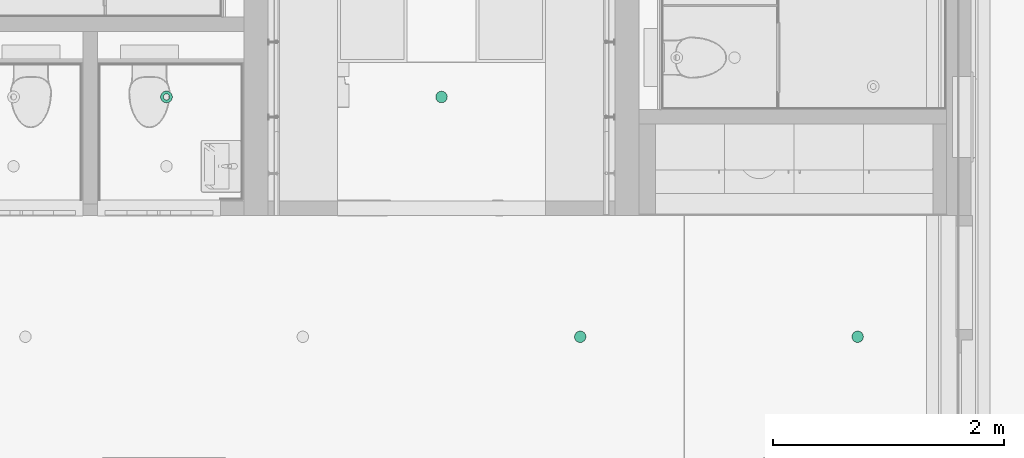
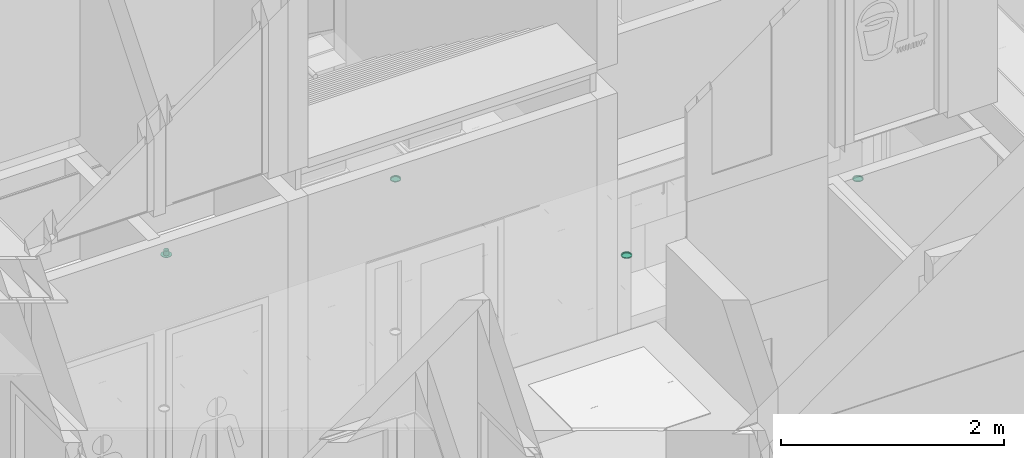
# One storey, part 255 of 347: 4 flow terminals.
"""IFC2X3 building model written with IfcOpenShell, lengths in millimetres."""

import ifcopenshell
import ifcopenshell.guid

model = None  # the IFC model being written
_history = None  # IfcOwnerHistory: only IFC2X3 demands one
_inside = {}  # id of a spatial element -> (the spatial element, [elements in it])
_under = {}  # id of a project, library or spatial element -> (it, [spatial elements below it])
_declared = {}  # id of a project -> (the project, [libraries it declares])
_typed = {}  # id of a type object -> (the type object, [elements of that type])
_made_of = {}  # id of a material, layer set ... -> (it, [elements and type objects made of it])


def new_model(schema):
    """Start an empty IFC model of exactly this schema.

    Asked for "IFC4X3", IfcOpenShell would pick the latest addendum, in which some entities
    have other attributes; the version numbers below select the first issue.
    IFC2X3 requires an IfcOwnerHistory on every rooted entity: one is made here for all.
    """
    global model, _history
    if schema == "IFC4X3":
        model = ifcopenshell.file(schema_version=(4, 3, 0, 0))
    else:
        model = ifcopenshell.file(schema=schema)
    _inside.clear()
    _under.clear()
    _declared.clear()
    _typed.clear()
    _made_of.clear()
    _history = None
    if model.schema == "IFC2X3":
        org = make("IfcOrganization", Name="unknown")
        user = make(
            "IfcPersonAndOrganization",
            ThePerson=make("IfcPerson", FamilyName="unknown"),
            TheOrganization=org,
        )
        app = make(
            "IfcApplication",
            ApplicationDeveloper=org,
            Version="unknown",
            ApplicationFullName="unknown",
            ApplicationIdentifier="unknown",
        )
        _history = make(
            "IfcOwnerHistory",
            OwningUser=user,
            OwningApplication=app,
            ChangeAction="ADDED",
            CreationDate=0,
        )
    return model


def make(cls, **values):
    """One entity of the class cls with the attributes given. An attribute that is None is left unset."""
    return model.create_entity(
        cls, **{name: value for name, value in values.items() if value is not None}
    )


def entity(cls, *values):
    """Any entity or typed value of the class cls, its attributes in the order of the schema. None: left unset."""
    e = model.create_entity(cls)
    for i, value in enumerate(values):
        if value is not None:
            e[i] = value
    return e


def rooted(cls, **values):
    """An entity with a GlobalId (a new one), such as an element, a storey or a relation."""
    return make(cls, GlobalId=ifcopenshell.guid.new(), OwnerHistory=_history, **values)


def si_unit(unit_type, name, prefix=None):
    """IfcSIUnit, for example si_unit("LENGTHUNIT", "METRE", prefix="MILLI")."""
    return make("IfcSIUnit", UnitType=unit_type, Prefix=prefix, Name=name)


def converted_unit(unit_type, name, factor, base, dimensions=None, offset=None):
    """IfcConversionBasedUnit, such as the inch: factor (a typed value) times the base unit."""
    return make(
        "IfcConversionBasedUnit"
        if offset is None
        else "IfcConversionBasedUnitWithOffset",
        ConversionOffset=offset,
        Dimensions=None
        if dimensions is None
        else entity("IfcDimensionalExponents", *dimensions),
        UnitType=unit_type,
        Name=name,
        ConversionFactor=make(
            "IfcMeasureWithUnit", ValueComponent=factor, UnitComponent=base
        ),
    )


def derived_unit(unit_type, elements):
    """IfcDerivedUnit: a product of units, each with its exponent."""
    return make(
        "IfcDerivedUnit",
        Elements=[
            make("IfcDerivedUnitElement", Unit=unit, Exponent=power)
            for unit, power in elements
        ],
        UnitType=unit_type,
    )


def money_unit(currency):
    """IfcMonetaryUnit."""
    return make("IfcMonetaryUnit", Currency=currency)


def assignment(units):
    """IfcUnitAssignment: the units of a project."""
    return None if units is None else make("IfcUnitAssignment", Units=units)


def point(xyz):
    """IfcCartesianPoint."""
    return None if xyz is None else make("IfcCartesianPoint", Coordinates=xyz)


def direction(xyz):
    """IfcDirection."""
    return None if xyz is None else make("IfcDirection", DirectionRatios=xyz)


def frame(location, z_axis=None, x_axis=None):
    """IfcAxis2Placement3D, a coordinate frame: its origin and axes. An axis left out is left unset."""
    return make(
        "IfcAxis2Placement3D",
        Location=point(location),
        Axis=direction(z_axis),
        RefDirection=direction(x_axis),
    )


def origin_with_axes():
    """The frame at (0, 0, 0) with the z axis (0, 0, 1) and the x axis (1, 0, 0) written out."""
    return frame((0.0, 0.0, 0.0), z_axis=(0.0, 0.0, 1.0), x_axis=(1.0, 0.0, 0.0))


def place(relative_to, where):
    """IfcLocalPlacement: puts the frame where relative to a parent placement (None: the world)."""
    return make(
        "IfcLocalPlacement", PlacementRelTo=relative_to, RelativePlacement=where
    )


def context(
    kind, dimensions, precision=None, world=None, true_north=None, identifier=None
):
    """IfcGeometricRepresentationContext, for example the 3D "Model" context."""
    return make(
        "IfcGeometricRepresentationContext",
        ContextIdentifier=identifier,
        ContextType=kind,
        CoordinateSpaceDimension=dimensions,
        Precision=precision,
        WorldCoordinateSystem=world,
        TrueNorth=true_north,
    )


def subcontext(parent, identifier, kind, view, scale=None):
    """IfcGeometricRepresentationSubContext, for example "Body" below "Model"."""
    return make(
        "IfcGeometricRepresentationSubContext",
        ContextIdentifier=identifier,
        ContextType=kind,
        ParentContext=parent,
        TargetScale=scale,
        TargetView=view,
    )


def project(units=None, contexts=None):
    """IfcProject with its units and contexts."""
    return rooted(
        "IfcProject",
        Name="project",
        RepresentationContexts=contexts,
        UnitsInContext=assignment(units),
    )


def spatial(cls, under=None, at=None, **own):
    """A site, building, storey or space (cls), placed at a placement, below another one or the project."""
    s = rooted(cls, ObjectPlacement=at, **own)
    if under is not None:
        _under.setdefault(under.id(), (under, []))[1].append(s)
    return s


def faces_of(points, faces, orient=None, outer=None):
    """IfcFace entities. A face is a list of loops; a loop is a list of indices into points, from 0.

    orient and outer hold one flag for each loop. By default every Orientation is true, the
    first loop of a face is its IfcFaceOuterBound and the others are IfcFaceBound.
    """
    made = []
    for i, loops in enumerate(faces):
        bounds = []
        for j, loop in enumerate(loops):
            is_outer = j == 0 if outer is None else outer[i][j]
            bounds.append(
                make(
                    "IfcFaceOuterBound" if is_outer else "IfcFaceBound",
                    Bound=make("IfcPolyLoop", Polygon=[points[k] for k in loop]),
                    Orientation=True if orient is None else orient[i][j],
                )
            )
        made.append(make("IfcFace", Bounds=bounds))
    return made


def open_shell(faces, orient=None, outer=None):
    """The faces of one IfcOpenShell. surface_model builds it on its shared points."""
    return ("IfcOpenShell", faces, orient, outer)


def faceted_brep(points, faces, orient=None, outer=None, voids=None):
    """IfcFacetedBrep: a solid bounded by flat faces; with voids (closed shells), ...WithVoids."""
    shared = [point(p) for p in points]
    hull = make("IfcClosedShell", CfsFaces=faces_of(shared, faces, orient, outer))
    if voids is None:
        return make("IfcFacetedBrep", Outer=hull)
    return make(
        "IfcFacetedBrepWithVoids",
        Outer=hull,
        Voids=[
            make(cls, CfsFaces=faces_of(shared, fs, o, b)) for cls, fs, o, b in voids
        ],
    )


def surface_model(cls, points, shells):
    """IfcFaceBasedSurfaceModel or IfcShellBasedSurfaceModel (cls): surfaces that need not close."""
    shared = [point(p) for p in points]
    made = [make(c, CfsFaces=faces_of(shared, fs, o, b)) for c, fs, o, b in shells]
    if cls == "IfcFaceBasedSurfaceModel":
        return make(cls, FbsmFaces=made)
    return make(cls, SbsmBoundary=made)


def shape(context_of_items, identifier, shape_type, items):
    """IfcShapeRepresentation: the items that make up one representation, for example the "Body"."""
    return make(
        "IfcShapeRepresentation",
        ContextOfItems=context_of_items,
        RepresentationIdentifier=identifier,
        RepresentationType=shape_type,
        Items=items,
    )


def source(mapping_origin, context_of_items, identifier, shape_type, items):
    """IfcRepresentationMap: a shape defined once, which mapped items show again and again."""
    return make(
        "IfcRepresentationMap",
        MappingOrigin=mapping_origin,
        MappedRepresentation=shape(context_of_items, identifier, shape_type, items),
    )


def transform(
    local_origin,
    x_axis=None,
    y_axis=None,
    z_axis=None,
    scale=None,
    scale2=None,
    scale3=None,
    uniform=True,
):
    """IfcCartesianTransformationOperator3D, or its non-uniform kind. x_axis, y_axis, z_axis: its Axis1, 2, 3."""
    if uniform:
        return make(
            "IfcCartesianTransformationOperator3D",
            Axis1=direction(x_axis),
            Axis2=direction(y_axis),
            LocalOrigin=point(local_origin),
            Scale=scale,
            Axis3=direction(z_axis),
        )
    return make(
        "IfcCartesianTransformationOperator3DnonUniform",
        Axis1=direction(x_axis),
        Axis2=direction(y_axis),
        LocalOrigin=point(local_origin),
        Scale=scale,
        Axis3=direction(z_axis),
        Scale2=scale2,
        Scale3=scale3,
    )


def mapped(mapping_source, mapping_target):
    """IfcMappedItem: shows the shape of a source again, moved by a transform."""
    return make(
        "IfcMappedItem", MappingSource=mapping_source, MappingTarget=mapping_target
    )


def made_of(thing, what):
    """Note that an element or type object is made of a material, layer set ...; save() writes the relation."""
    if what is not None:
        _made_of.setdefault(what.id(), (what, []))[1].append(thing)
    return thing


def type_object(cls, material=None, **own):
    """A type object (cls), such as IfcWallType, which elements share."""
    return made_of(rooted(cls, **own), material)


def type_shapes(of_type, sources):
    """Give a type object the sources (RepresentationMaps) that its elements show as mapped items."""
    of_type.RepresentationMaps = sources


def element(
    cls,
    number,
    at=None,
    inside=None,
    cuts=None,
    type_object=None,
    material=None,
    context=None,
    identifier="Body",
    shape_type=None,
    held_by="IfcProductDefinitionShape",
    body=None,
    shapes=None,
    **own,
):
    """One element of the class cls, such as IfcWall. Its Tag is "e" and its number.

    at: its placement. inside: the storey or other place that contains it. cuts: it is an
    opening in that element (IfcRelVoidsElement). A single representation is given by context,
    identifier, shape_type and body (its items); several are given by shapes. held_by: the class
    of the entity that holds the representations. save() writes the other relations.
    """
    e = rooted(cls, Tag="e%d" % number, ObjectPlacement=at, **own)
    if body is not None:
        shapes = [shape(context, identifier, shape_type, body)]
    if shapes is not None:
        e.Representation = make(held_by, Representations=shapes)
    if inside is not None:
        _inside.setdefault(inside.id(), (inside, []))[1].append(e)
    if cuts is not None:
        rooted(
            "IfcRelVoidsElement", RelatingBuildingElement=cuts, RelatedOpeningElement=e
        )
    if type_object is not None:
        _typed.setdefault(type_object.id(), (type_object, []))[1].append(e)
    return made_of(e, material)


def aggregate(whole, parts):
    """IfcRelAggregates: a whole, such as a stair, and the parts it consists of."""
    return rooted("IfcRelAggregates", RelatingObject=whole, RelatedObjects=parts)


def save(model, path):
    """Write the relations noted so far, then the file.

    IfcRelAggregates (storeys below a building ...), IfcRelContainedInSpatialStructure (elements
    in a storey), IfcRelDefinesByType, IfcRelAssociatesMaterial and IfcRelDeclares: one each for
    every whole, place, type object, material and project.
    """
    for whole, parts in _under.values():
        aggregate(whole, parts)
    for where, things in _inside.values():
        rooted(
            "IfcRelContainedInSpatialStructure",
            RelatedElements=things,
            RelatingStructure=where,
        )
    for kind, things in _typed.values():
        rooted("IfcRelDefinesByType", RelatedObjects=things, RelatingType=kind)
    for what, things in _made_of.values():
        rooted("IfcRelAssociatesMaterial", RelatedObjects=things, RelatingMaterial=what)
    for by, libraries in _declared.values():
        rooted("IfcRelDeclares", RelatingContext=by, RelatedDefinitions=libraries)
    model.write(path)


model = new_model("IFC2X3")

# Units and contexts
model_context = context("Model", 3, precision=0.01, world=origin_with_axes(), true_north=direction((0.0, 1.0)))
plan_context = context("Plan", 3, precision=0.01, world=origin_with_axes(), true_north=direction((0.0, 1.0)))
body_context = subcontext(model_context, "Body", "Model", "MODEL_VIEW")
ifc_project = project(units=[si_unit("LENGTHUNIT", "METRE", prefix="MILLI"), si_unit("AREAUNIT", "SQUARE_METRE"), si_unit("VOLUMEUNIT", "CUBIC_METRE"), converted_unit("PLANEANGLEUNIT", "DEGREE", entity("IfcPlaneAngleMeasure", 0.0174532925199), si_unit("PLANEANGLEUNIT", "RADIAN"), dimensions=[0, 0, 0, 0, 0, 0, 0]), money_unit("EUR"), converted_unit("TIMEUNIT", "Year", entity("IfcTimeMeasure", 31556926.0), si_unit("TIMEUNIT", "SECOND"), dimensions=[0, 0, 1, 0, 0, 0, 0]), si_unit("MASSUNIT", "GRAM", prefix="KILO"), si_unit("THERMODYNAMICTEMPERATUREUNIT", "DEGREE_CELSIUS"), si_unit("LUMINOUSINTENSITYUNIT", "LUMEN"), si_unit("ENERGYUNIT", "JOULE", prefix="MEGA"), derived_unit("THERMALCONDUCTANCEUNIT", [(si_unit("POWERUNIT", "WATT"), 1), (si_unit("LENGTHUNIT", "METRE"), -1), (si_unit("THERMODYNAMICTEMPERATUREUNIT", "KELVIN"), -1)]), derived_unit("SPECIFICHEATCAPACITYUNIT", [(si_unit("ENERGYUNIT", "JOULE"), 1), (si_unit("MASSUNIT", "GRAM", prefix="KILO"), -1), (si_unit("THERMODYNAMICTEMPERATUREUNIT", "KELVIN"), -1)]), derived_unit("MASSDENSITYUNIT", [(si_unit("MASSUNIT", "GRAM", prefix="KILO"), 1), (si_unit("VOLUMEUNIT", "CUBIC_METRE"), -1)])], contexts=[model_context, plan_context])

# Site, building, storey
site_placement = place(None, origin_with_axes())
site = spatial("IfcSite", under=ifc_project, at=site_placement, Name="Site", CompositionType="ELEMENT")
building_placement = place(site_placement, origin_with_axes())
building = spatial("IfcBuilding", under=site, at=building_placement, Name="Naam gebouw", CompositionType="ELEMENT")
storey_placement = place(building_placement, origin_with_axes())
storey = spatial("IfcBuildingStorey", under=building, at=storey_placement, Name="begane grond", CompositionType="ELEMENT", Elevation=0.0)

# Flow terminals
lamp_type = type_object("IfcLampType", Name="Spot plafond 01 25", PredefinedType="NOTDEFINED")
shared_shape_1 = source(origin_with_axes(), body_context, "Body", "SurfaceModel", [
    faceted_brep([(50.0, 0.0, -10.0), (46.1939766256, 19.1341716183, -10.0), (46.1939766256, 19.1341716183, 0.0), (50.0, 0.0, 0.0), (46.1939766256, -19.1341716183, -10.0), (35.3553390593, -35.3553390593, -10.0), (19.1341716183, -46.1939766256, -10.0), (0.0, -50.0, -10.0), (-19.1341716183, -46.1939766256, -10.0), (-35.3553390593, -35.3553390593, -10.0), (-46.1939766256, -19.1341716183, -10.0), (-50.0, 0.0, -10.0), (-46.1939766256, 19.1341716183, -10.0), (-35.3553390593, 35.3553390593, -10.0), (-19.1341716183, 46.1939766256, -10.0), (0.0, 50.0, -10.0), (19.1341716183, 46.1939766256, -10.0), (35.3553390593, 35.3553390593, -10.0), (40.0, 0.0, -10.0), (36.9551813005, 15.3073372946, -10.0), (28.2842712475, 28.2842712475, -10.0), (15.3073372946, 36.9551813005, -10.0), (0.0, 40.0, -10.0), (-15.3073372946, 36.9551813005, -10.0), (-28.2842712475, 28.2842712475, -10.0), (-36.9551813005, 15.3073372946, -10.0), (-40.0, 0.0, -10.0), (-36.9551813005, -15.3073372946, -10.0), (-28.2842712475, -28.2842712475, -10.0), (-15.3073372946, -36.9551813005, -10.0), (0.0, -40.0, -10.0), (15.3073372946, -36.9551813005, -10.0), (28.2842712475, -28.2842712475, -10.0), (36.9551813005, -15.3073372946, -10.0), (35.3553390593, 35.3553390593, 0.0), (19.1341716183, 46.1939766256, 0.0), (0.0, 50.0, 0.0), (-19.1341716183, 46.1939766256, 0.0), (-35.3553390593, 35.3553390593, 0.0), (-46.1939766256, 19.1341716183, 0.0), (-50.0, 0.0, 0.0), (-46.1939766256, -19.1341716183, 0.0), (-35.3553390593, -35.3553390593, 0.0), (-19.1341716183, -46.1939766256, 0.0), (0.0, -50.0, 0.0), (19.1341716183, -46.1939766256, 0.0), (35.3553390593, -35.3553390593, 0.0), (46.1939766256, -19.1341716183, 0.0), (40.0, 0.0, 0.0), (36.9551813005, -15.3073372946, 0.0), (28.2842712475, -28.2842712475, 0.0), (15.3073372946, -36.9551813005, 0.0), (0.0, -40.0, 0.0), (-15.3073372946, -36.9551813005, 0.0), (-28.2842712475, -28.2842712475, 0.0), (-36.9551813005, -15.3073372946, 0.0), (-40.0, 0.0, 0.0), (-36.9551813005, 15.3073372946, 0.0), (-28.2842712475, 28.2842712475, 0.0), (-15.3073372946, 36.9551813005, 0.0), (0.0, 40.0, 0.0), (15.3073372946, 36.9551813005, 0.0), (28.2842712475, 28.2842712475, 0.0), (36.9551813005, 15.3073372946, 0.0)], [[[0, 1, 2, 3]], [[0, 4, 5, 6, 7, 8, 9, 10, 11, 12, 13, 14, 15, 16, 17, 1], [18, 19, 20, 21, 22, 23, 24, 25, 26, 27, 28, 29, 30, 31, 32, 33]], [[1, 17, 34, 2]], [[3, 2, 34, 35, 36, 37, 38, 39, 40, 41, 42, 43, 44, 45, 46, 47], [48, 49, 50, 51, 52, 53, 54, 55, 56, 57, 58, 59, 60, 61, 62, 63]], [[4, 0, 3, 47]], [[5, 4, 47, 46]], [[6, 5, 46, 45]], [[7, 6, 45, 44]], [[8, 7, 44, 43]], [[9, 8, 43, 42]], [[10, 9, 42, 41]], [[11, 10, 41, 40]], [[12, 11, 40, 39]], [[13, 12, 39, 38]], [[14, 13, 38, 37]], [[15, 14, 37, 36]], [[16, 15, 36, 35]], [[17, 16, 35, 34]], [[19, 18, 48, 63]], [[20, 19, 63, 62]], [[21, 20, 62, 61]], [[22, 21, 61, 60]], [[23, 22, 60, 59]], [[24, 23, 59, 58]], [[25, 24, 58, 57]], [[26, 25, 57, 56]], [[27, 26, 56, 55]], [[28, 27, 55, 54]], [[29, 28, 54, 53]], [[30, 29, 53, 52]], [[31, 30, 52, 51]], [[32, 31, 51, 50]], [[33, 32, 50, 49]], [[18, 33, 49, 48]]]),
    surface_model("IfcShellBasedSurfaceModel", [(40.0, 0.0, -8.9), (36.9551813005, -15.3073372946, -8.9), (28.2842712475, -28.2842712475, -8.9), (15.3073372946, -36.9551813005, -8.9), (0.0, -40.0, -8.9), (-15.3073372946, -36.9551813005, -8.9), (-28.2842712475, -28.2842712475, -8.9), (-36.9551813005, -15.3073372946, -8.9), (-40.0, 0.0, -8.9), (-36.9551813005, 15.3073372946, -8.9), (-28.2842712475, 28.2842712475, -8.9), (-15.3073372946, 36.9551813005, -8.9), (0.0, 40.0, -8.9), (15.3073372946, 36.9551813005, -8.9), (28.2842712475, 28.2842712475, -8.9), (36.9551813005, 15.3073372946, -8.9)], [open_shell([[[0, 1, 2, 3, 4, 5, 6, 7, 8, 9, 10, 11, 12, 13, 14, 15]]])]),
])
type_shapes(lamp_type, [shared_shape_1])
for number, where, z_axis, x_axis, name in (
    (1, (41275.0, 29024.9999638, 2600.0), (0.0, 0.0, 1.0), (1.0, 0.0, 0.0), "63_Lamp-x"),
    (2, (43675.0, 29024.9999638, 2600.0), (0.0, 0.0, 1.0), (1.0, 0.0, 0.0), "63_Lamp-x"),
    (3, (40075.0001446, 31099.7053476, 2600.0), (0.0, 0.0, 1.0), (1.0, 0.0, 0.0), "63_Lamp-x"),
):
    element("IfcFlowTerminal", number, at=place(storey_placement, frame(where, z_axis=z_axis, x_axis=x_axis)), inside=storey, type_object=lamp_type, Name=name, ObjectType="Lamp", context=body_context, shape_type="MappedRepresentation", body=[
        mapped(shared_shape_1, transform((0.0, 0.0, 0.0))),
    ])
air_terminal_type = type_object("IfcAirTerminalType", Name="Rooster plafond rond 25", PredefinedType="GRILLE")
shared_shape_2 = source(origin_with_axes(), body_context, "Body", "SurfaceModel", [
    faceted_brep([(51.0, 0.0, -5.0), (49.2622171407, 13.1997713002, -5.0), (49.2622171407, 13.1997713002, 0.0), (51.0, 0.0, 0.0), (49.2622171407, -13.1997713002, -5.0), (44.167295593, -25.5, -5.0), (36.0624458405, -36.0624458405, -5.0), (25.5, -44.167295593, -5.0), (13.1997713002, -49.2622171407, -5.0), (0.0, -51.0, -5.0), (-13.1997713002, -49.2622171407, -5.0), (-25.5, -44.167295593, -5.0), (-36.0624458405, -36.0624458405, -5.0), (-44.167295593, -25.5, -5.0), (-49.2622171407, -13.1997713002, -5.0), (-51.0, 0.0, -5.0), (-49.2622171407, 13.1997713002, -5.0), (-44.167295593, 25.5, -5.0), (-36.0624458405, 36.0624458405, -5.0), (-25.5, 44.167295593, -5.0), (-13.1997713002, 49.2622171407, -5.0), (0.0, 51.0, -5.0), (13.1997713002, 49.2622171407, -5.0), (25.5, 44.167295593, -5.0), (36.0624458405, 36.0624458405, -5.0), (44.167295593, 25.5, -5.0), (26.0, 0.0, -5.0), (25.1140714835, 6.72929517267, -5.0), (22.5166604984, 13.0, -5.0), (18.3847763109, 18.3847763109, -5.0), (13.0, 22.5166604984, -5.0), (6.72929517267, 25.1140714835, -5.0), (0.0, 26.0, -5.0), (-6.72929517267, 25.1140714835, -5.0), (-13.0, 22.5166604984, -5.0), (-18.3847763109, 18.3847763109, -5.0), (-22.5166604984, 13.0, -5.0), (-25.1140714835, 6.72929517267, -5.0), (-26.0, 0.0, -5.0), (-25.1140714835, -6.72929517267, -5.0), (-22.5166604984, -13.0, -5.0), (-18.3847763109, -18.3847763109, -5.0), (-13.0, -22.5166604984, -5.0), (-6.72929517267, -25.1140714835, -5.0), (0.0, -26.0, -5.0), (6.72929517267, -25.1140714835, -5.0), (13.0, -22.5166604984, -5.0), (18.3847763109, -18.3847763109, -5.0), (22.5166604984, -13.0, -5.0), (25.1140714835, -6.72929517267, -5.0), (44.167295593, 25.5, 0.0), (36.0624458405, 36.0624458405, 0.0), (25.5, 44.167295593, 0.0), (13.1997713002, 49.2622171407, 0.0), (0.0, 51.0, 0.0), (-13.1997713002, 49.2622171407, 0.0), (-25.5, 44.167295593, 0.0), (-36.0624458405, 36.0624458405, 0.0), (-44.167295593, 25.5, 0.0), (-49.2622171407, 13.1997713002, 0.0), (-51.0, 0.0, 0.0), (-49.2622171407, -13.1997713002, 0.0), (-44.167295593, -25.5, 0.0), (-36.0624458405, -36.0624458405, 0.0), (-25.5, -44.167295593, 0.0), (-13.1997713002, -49.2622171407, 0.0), (0.0, -51.0, 0.0), (13.1997713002, -49.2622171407, 0.0), (25.5, -44.167295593, 0.0), (36.0624458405, -36.0624458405, 0.0), (44.167295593, -25.5, 0.0), (49.2622171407, -13.1997713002, 0.0), (26.0, 0.0, 0.0), (25.1140714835, -6.72929517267, 0.0), (22.5166604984, -13.0, 0.0), (18.3847763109, -18.3847763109, 0.0), (13.0, -22.5166604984, 0.0), (6.72929517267, -25.1140714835, 0.0), (0.0, -26.0, 0.0), (-6.72929517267, -25.1140714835, 0.0), (-13.0, -22.5166604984, 0.0), (-18.3847763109, -18.3847763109, 0.0), (-22.5166604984, -13.0, 0.0), (-25.1140714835, -6.72929517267, 0.0), (-26.0, 0.0, 0.0), (-25.1140714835, 6.72929517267, 0.0), (-22.5166604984, 13.0, 0.0), (-18.3847763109, 18.3847763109, 0.0), (-13.0, 22.5166604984, 0.0), (-6.72929517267, 25.1140714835, 0.0), (0.0, 26.0, 0.0), (6.72929517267, 25.1140714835, 0.0), (13.0, 22.5166604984, 0.0), (18.3847763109, 18.3847763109, 0.0), (22.5166604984, 13.0, 0.0), (25.1140714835, 6.72929517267, 0.0)], [[[0, 1, 2, 3]], [[0, 4, 5, 6, 7, 8, 9, 10, 11, 12, 13, 14, 15, 16, 17, 18, 19, 20, 21, 22, 23, 24, 25, 1], [26, 27, 28, 29, 30, 31, 32, 33, 34, 35, 36, 37, 38, 39, 40, 41, 42, 43, 44, 45, 46, 47, 48, 49]], [[1, 25, 50, 2]], [[3, 2, 50, 51, 52, 53, 54, 55, 56, 57, 58, 59, 60, 61, 62, 63, 64, 65, 66, 67, 68, 69, 70, 71], [72, 73, 74, 75, 76, 77, 78, 79, 80, 81, 82, 83, 84, 85, 86, 87, 88, 89, 90, 91, 92, 93, 94, 95]], [[4, 0, 3, 71]], [[5, 4, 71, 70]], [[6, 5, 70, 69]], [[7, 6, 69, 68]], [[8, 7, 68, 67]], [[9, 8, 67, 66]], [[10, 9, 66, 65]], [[11, 10, 65, 64]], [[12, 11, 64, 63]], [[13, 12, 63, 62]], [[14, 13, 62, 61]], [[15, 14, 61, 60]], [[16, 15, 60, 59]], [[17, 16, 59, 58]], [[18, 17, 58, 57]], [[19, 18, 57, 56]], [[20, 19, 56, 55]], [[21, 20, 55, 54]], [[22, 21, 54, 53]], [[23, 22, 53, 52]], [[24, 23, 52, 51]], [[25, 24, 51, 50]], [[27, 26, 72, 95]], [[28, 27, 95, 94]], [[29, 28, 94, 93]], [[30, 29, 93, 92]], [[31, 30, 92, 91]], [[32, 31, 91, 90]], [[33, 32, 90, 89]], [[34, 33, 89, 88]], [[35, 34, 88, 87]], [[36, 35, 87, 86]], [[37, 36, 86, 85]], [[38, 37, 85, 84]], [[39, 38, 84, 83]], [[40, 39, 83, 82]], [[41, 40, 82, 81]], [[42, 41, 81, 80]], [[43, 42, 80, 79]], [[44, 43, 79, 78]], [[45, 44, 78, 77]], [[46, 45, 77, 76]], [[47, 46, 76, 75]], [[48, 47, 75, 74]], [[49, 48, 74, 73]], [[26, 49, 73, 72]]]),
    surface_model("IfcShellBasedSurfaceModel", [(0.0, -26.0, 0.0), (6.72929517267, -25.1140714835, 0.0), (6.72929517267, -25.1140714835, 50.0), (0.0, -26.0, 50.0), (13.0, -22.5166604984, 0.0), (13.0, -22.5166604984, 50.0), (-6.72929517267, -25.1140714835, 0.0), (-6.72929517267, -25.1140714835, 50.0), (18.3847763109, -18.3847763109, 0.0), (18.3847763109, -18.3847763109, 50.0), (-13.0, -22.5166604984, 0.0), (-13.0, -22.5166604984, 50.0), (22.5166604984, -13.0, 0.0), (22.5166604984, -13.0, 50.0), (-18.3847763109, -18.3847763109, 0.0), (-18.3847763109, -18.3847763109, 50.0), (25.1140714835, -6.72929517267, 0.0), (25.1140714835, -6.72929517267, 50.0), (-22.5166604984, -13.0, 0.0), (-22.5166604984, -13.0, 50.0), (26.0, 0.0, 0.0), (26.0, 0.0, 50.0), (-25.1140714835, -6.72929517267, 0.0), (-25.1140714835, -6.72929517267, 50.0), (25.1140714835, 6.72929517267, 0.0), (25.1140714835, 6.72929517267, 50.0), (-26.0, 0.0, 0.0), (-26.0, 0.0, 50.0), (22.5166604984, 13.0, 0.0), (22.5166604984, 13.0, 50.0), (-25.1140714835, 6.72929517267, 0.0), (-25.1140714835, 6.72929517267, 50.0), (18.3847763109, 18.3847763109, 0.0), (18.3847763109, 18.3847763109, 50.0), (-22.5166604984, 13.0, 0.0), (-22.5166604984, 13.0, 50.0), (13.0, 22.5166604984, 0.0), (13.0, 22.5166604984, 50.0), (-18.3847763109, 18.3847763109, 0.0), (-18.3847763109, 18.3847763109, 50.0), (6.72929517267, 25.1140714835, 0.0), (6.72929517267, 25.1140714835, 50.0), (-13.0, 22.5166604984, 0.0), (-13.0, 22.5166604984, 50.0), (0.0, 26.0, 0.0), (0.0, 26.0, 50.0), (-6.72929517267, 25.1140714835, 0.0), (-6.72929517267, 25.1140714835, 50.0)], [open_shell([[[0, 1, 2, 3]], [[1, 4, 5, 2]], [[6, 0, 3, 7]], [[4, 8, 9, 5]], [[10, 6, 7, 11]], [[8, 12, 13, 9]], [[14, 10, 11, 15]], [[12, 16, 17, 13]], [[18, 14, 15, 19]], [[16, 20, 21, 17]], [[22, 18, 19, 23]], [[20, 24, 25, 21]], [[26, 22, 23, 27]], [[24, 28, 29, 25]], [[30, 26, 27, 31]], [[28, 32, 33, 29]], [[34, 30, 31, 35]], [[32, 36, 37, 33]], [[38, 34, 35, 39]], [[36, 40, 41, 37]], [[42, 38, 39, 43]], [[40, 44, 45, 41]], [[46, 42, 43, 47]], [[44, 46, 47, 45]]])]),
])
type_shapes(air_terminal_type, [shared_shape_2])
flow_terminal_placement = place(storey_placement, frame((37695.5, 31099.9999277, 2600.0), z_axis=(0.0, 0.0, 1.0), x_axis=(1.0, 0.0, 0.0)))
element("IfcFlowTerminal", 4, at=flow_terminal_placement, inside=storey, type_object=air_terminal_type, Name="57_78 garderobe", context=body_context, shape_type="MappedRepresentation", body=[
    mapped(shared_shape_2, transform((0.0, 0.0, 0.0))),
])

save(model, "model.ifc")
